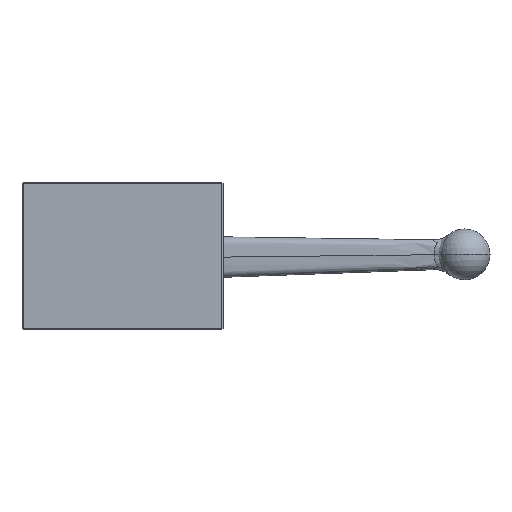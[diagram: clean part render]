
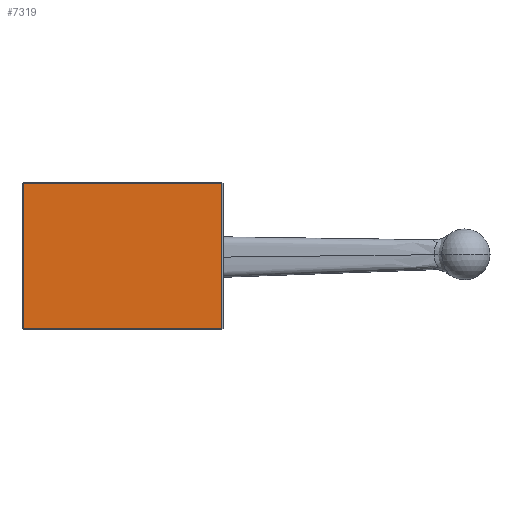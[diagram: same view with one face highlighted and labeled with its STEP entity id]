
A CAD part, left-side view. The second image highlights one B-rep face of the part: STEP entity #7319.
In plain terms, the highlighted planar face has unit normal (-1, 0, 0).
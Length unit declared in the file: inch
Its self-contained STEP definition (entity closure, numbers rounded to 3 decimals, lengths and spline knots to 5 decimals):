
#901 = DIRECTION ( 'NONE',  ( 0., 0., 1. ) ) ;
#1372 = CARTESIAN_POINT ( 'NONE',  ( -0.26694, -0.05331, 1.2276 ) ) ;
#2526 = LINE ( 'NONE', #44743, #8792 ) ;
#2772 = DIRECTION ( 'NONE',  ( 0., 0., -1. ) ) ;
#2887 = VECTOR ( 'NONE', #901, 39.37008 ) ;
#7253 = CARTESIAN_POINT ( 'NONE',  ( -0.26694, -0.03331, 3.9376 ) ) ;
#7319 = ADVANCED_FACE ( 'NONE', ( #55515 ), #46948, .F. ) ;
#8792 = VECTOR ( 'NONE', #26059, 39.37008 ) ;
#10267 = CARTESIAN_POINT ( 'NONE',  ( -0.26694, -0.03331, 1.2276 ) ) ;
#14188 = DIRECTION ( 'NONE',  ( 0., 1., 0. ) ) ;
#15104 = AXIS2_PLACEMENT_3D ( 'NONE', #32262, #42074, #14188 ) ;
#15702 = ORIENTED_EDGE ( 'NONE', *, *, #35904, .T. ) ;
#16618 = VERTEX_POINT ( 'NONE', #10267 ) ;
#20149 = VERTEX_POINT ( 'NONE', #50667 ) ;
#21541 = VECTOR ( 'NONE', #46980, 39.37008 ) ;
#22352 = ORIENTED_EDGE ( 'NONE', *, *, #33706, .T. ) ;
#22637 = LINE ( 'NONE', #30916, #57318 ) ;
#23319 = ORIENTED_EDGE ( 'NONE', *, *, #44468, .T. ) ;
#24135 = CARTESIAN_POINT ( 'NONE',  ( -0.26694, -0.03331, 3.9576 ) ) ;
#26059 = DIRECTION ( 'NONE',  ( 0., 1., 0. ) ) ;
#29869 = VERTEX_POINT ( 'NONE', #38293 ) ;
#30916 = CARTESIAN_POINT ( 'NONE',  ( -0.26694, 3.67669, 3.9576 ) ) ;
#32262 = CARTESIAN_POINT ( 'NONE',  ( -0.26694, -0.05331, 3.9576 ) ) ;
#33706 = EDGE_CURVE ( 'NONE', #50256, #29869, #2526, .T. ) ;
#35904 = EDGE_CURVE ( 'NONE', #20149, #16618, #47280, .T. ) ;
#37017 = LINE ( 'NONE', #24135, #2887 ) ;
#38293 = CARTESIAN_POINT ( 'NONE',  ( -0.26694, 3.67669, 3.9376 ) ) ;
#42074 = DIRECTION ( 'NONE',  ( 1., 0., 0. ) ) ;
#43806 = ORIENTED_EDGE ( 'NONE', *, *, #51320, .T. ) ;
#44468 = EDGE_CURVE ( 'NONE', #29869, #20149, #22637, .T. ) ;
#44743 = CARTESIAN_POINT ( 'NONE',  ( -0.26694, -0.05331, 3.9376 ) ) ;
#45988 = EDGE_LOOP ( 'NONE', ( #43806, #22352, #23319, #15702 ) ) ;
#46948 = PLANE ( 'NONE',  #15104 ) ;
#46980 = DIRECTION ( 'NONE',  ( 0., -1., 0. ) ) ;
#47280 = LINE ( 'NONE', #1372, #21541 ) ;
#50256 = VERTEX_POINT ( 'NONE', #7253 ) ;
#50667 = CARTESIAN_POINT ( 'NONE',  ( -0.26694, 3.67669, 1.2276 ) ) ;
#51320 = EDGE_CURVE ( 'NONE', #16618, #50256, #37017, .T. ) ;
#55515 = FACE_OUTER_BOUND ( 'NONE', #45988, .T. ) ;
#57318 = VECTOR ( 'NONE', #2772, 39.37008 ) ;
